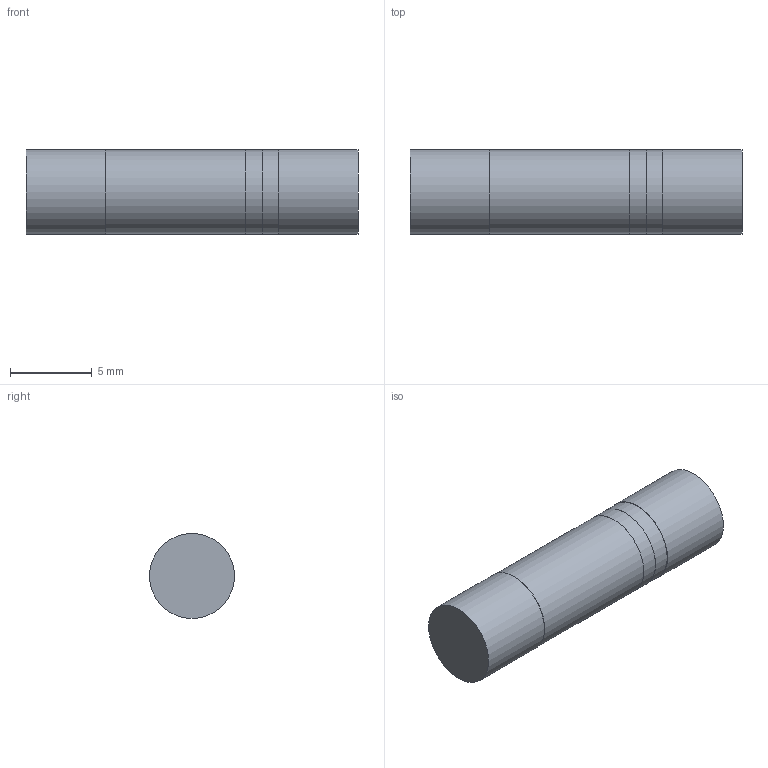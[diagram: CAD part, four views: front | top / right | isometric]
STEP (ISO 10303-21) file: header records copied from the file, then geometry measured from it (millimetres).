
FILE_DESCRIPTION(('STEP AP214'),'1');
FILE_NAME('5S_MELF_BEL','2021-02-26T15:20:59',(''),(''),'','','');
FILE_SCHEMA(('AUTOMOTIVE_DESIGN'));
Length unit declared in the file: millimetre
Products named in the file (1): product
Bounding box: 20.24 x 5.18 x 5.18 mm (x, y, z)
Volume: 422.6 mm3; surface area: 486.3 mm2
Topology: 4 solids, 4 shells, 13 faces, 19 edges, 14 vertices
Faces by surface type: plane 8, cylinder 5
Full cylindrical faces by diameter (mm): 5.131 x2, 5.136 x1, 5.182 x2
Entity records: 342 total; most frequent: DIRECTION 62, CARTESIAN_POINT 39, AXIS2_PLACEMENT_3D 31, ORIENTED_EDGE 28, EDGE_LOOP 20, CIRCLE 14, VERTEX_POINT 14, EDGE_CURVE 14
